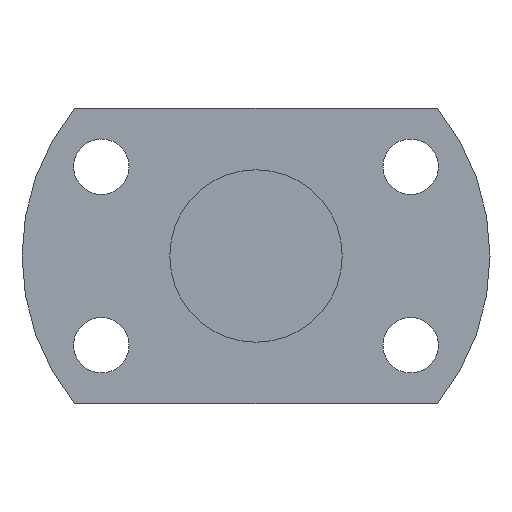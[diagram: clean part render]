
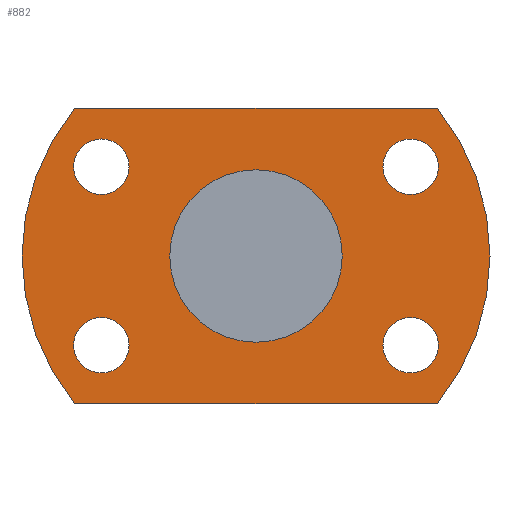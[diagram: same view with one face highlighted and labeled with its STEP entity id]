
A CAD part, left-side view. The second image highlights one B-rep face of the part: STEP entity #882.
In plain terms, the highlighted planar face has unit normal (-1, 0, 0).
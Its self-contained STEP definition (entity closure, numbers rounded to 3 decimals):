
#230=CARTESIAN_POINT('',(120.0,25.115,-10.0));
#231=VERTEX_POINT('',#230);
#232=CARTESIAN_POINT('',(120.0,25.115,-14.5));
#233=DIRECTION('',(1.0,0.0,0.0));
#234=DIRECTION('',(0.0,0.0,1.0));
#235=AXIS2_PLACEMENT_3D('',#232,#233,#234);
#236=CIRCLE('',#235,4.5);
#237=EDGE_CURVE('',#231,#231,#236,.T.);
#279=CARTESIAN_POINT('',(120.0,-25.115,19.));
#280=VERTEX_POINT('',#279);
#281=CARTESIAN_POINT('',(120.0,-25.115,14.5));
#282=DIRECTION('',(1.0,0.0,0.0));
#283=DIRECTION('',(0.0,0.0,1.0));
#284=AXIS2_PLACEMENT_3D('',#281,#282,#283);
#285=CIRCLE('',#284,4.5);
#286=EDGE_CURVE('',#280,#280,#285,.T.);
#328=CARTESIAN_POINT('',(120.0,-25.115,-10.));
#329=VERTEX_POINT('',#328);
#330=CARTESIAN_POINT('',(120.0,-25.115,-14.5));
#331=DIRECTION('',(1.0,0.0,0.0));
#332=DIRECTION('',(0.0,0.0,1.0));
#333=AXIS2_PLACEMENT_3D('',#330,#331,#332);
#334=CIRCLE('',#333,4.5);
#335=EDGE_CURVE('',#329,#329,#334,.T.);
#377=CARTESIAN_POINT('',(120.0,25.115,19.0));
#378=VERTEX_POINT('',#377);
#379=CARTESIAN_POINT('',(120.0,25.115,14.5));
#380=DIRECTION('',(1.0,0.0,0.0));
#381=DIRECTION('',(0.0,0.0,1.0));
#382=AXIS2_PLACEMENT_3D('',#379,#380,#381);
#383=CIRCLE('',#382,4.5);
#384=EDGE_CURVE('',#378,#378,#383,.T.);
#688=CARTESIAN_POINT('',(120.0,-29.462,-24.));
#689=VERTEX_POINT('',#688);
#696=CARTESIAN_POINT('',(120.0,29.462,-24.));
#697=VERTEX_POINT('',#696);
#698=CARTESIAN_POINT('',(120.0,29.462,-24.));
#699=DIRECTION('',(0.0,-1.0,0.0));
#700=VECTOR('',#699,58.924);
#701=LINE('',#698,#700);
#702=EDGE_CURVE('',#697,#689,#701,.T.);
#719=CARTESIAN_POINT('',(120.0,-29.462,24.));
#720=VERTEX_POINT('',#719);
#727=CARTESIAN_POINT('',(120.0,0.0,0.));
#728=DIRECTION('',(-1.0,0.0,0.0));
#729=DIRECTION('',(0.0,0.0,1.0));
#730=AXIS2_PLACEMENT_3D('',#727,#728,#729);
#731=CIRCLE('',#730,38.);
#732=EDGE_CURVE('',#689,#720,#731,.T.);
#744=CARTESIAN_POINT('',(120.0,29.462,24.));
#745=VERTEX_POINT('',#744);
#752=CARTESIAN_POINT('',(120.0,-29.462,24.));
#753=DIRECTION('',(0.0,1.0,0.0));
#754=VECTOR('',#753,58.924);
#755=LINE('',#752,#754);
#756=EDGE_CURVE('',#720,#745,#755,.T.);
#769=CARTESIAN_POINT('',(120.0,0.0,0.));
#770=DIRECTION('',(-1.0,0.0,0.0));
#771=DIRECTION('',(0.0,0.0,1.0));
#772=AXIS2_PLACEMENT_3D('',#769,#770,#771);
#773=CIRCLE('',#772,38.);
#774=EDGE_CURVE('',#745,#697,#773,.T.);
#848=CARTESIAN_POINT('',(120.0,0.0,18.));
#849=DIRECTION('',(-1.0,0.0,0.0));
#850=DIRECTION('',(0.0,0.0,1.0));
#851=AXIS2_PLACEMENT_3D('',#848,#849,#850);
#852=PLANE('',#851);
#853=ORIENTED_EDGE('',*,*,#774,.T.);
#854=ORIENTED_EDGE('',*,*,#702,.T.);
#855=ORIENTED_EDGE('',*,*,#732,.T.);
#856=ORIENTED_EDGE('',*,*,#756,.T.);
#857=EDGE_LOOP('',(#853,#854,#855,#856));
#858=FACE_OUTER_BOUND('',#857,.T.);
#859=ORIENTED_EDGE('',*,*,#237,.T.);
#860=EDGE_LOOP('',(#859));
#861=FACE_BOUND('',#860,.T.);
#862=ORIENTED_EDGE('',*,*,#286,.T.);
#863=EDGE_LOOP('',(#862));
#864=FACE_BOUND('',#863,.T.);
#865=ORIENTED_EDGE('',*,*,#335,.T.);
#866=EDGE_LOOP('',(#865));
#867=FACE_BOUND('',#866,.T.);
#868=ORIENTED_EDGE('',*,*,#384,.T.);
#869=EDGE_LOOP('',(#868));
#870=FACE_BOUND('',#869,.T.);
#871=CARTESIAN_POINT('',(120.0,0.0,14.));
#872=VERTEX_POINT('',#871);
#873=CARTESIAN_POINT('',(120.0,0.0,0.));
#874=DIRECTION('',(-1.0,0.0,0.0));
#875=DIRECTION('',(0.0,0.0,1.0));
#876=AXIS2_PLACEMENT_3D('',#873,#874,#875);
#877=CIRCLE('',#876,14.);
#878=EDGE_CURVE('',#872,#872,#877,.T.);
#879=ORIENTED_EDGE('',*,*,#878,.F.);
#880=EDGE_LOOP('',(#879));
#881=FACE_BOUND('',#880,.T.);
#882=ADVANCED_FACE('',(#858,#861,#864,#867,#870,#881),#852,.T.);
